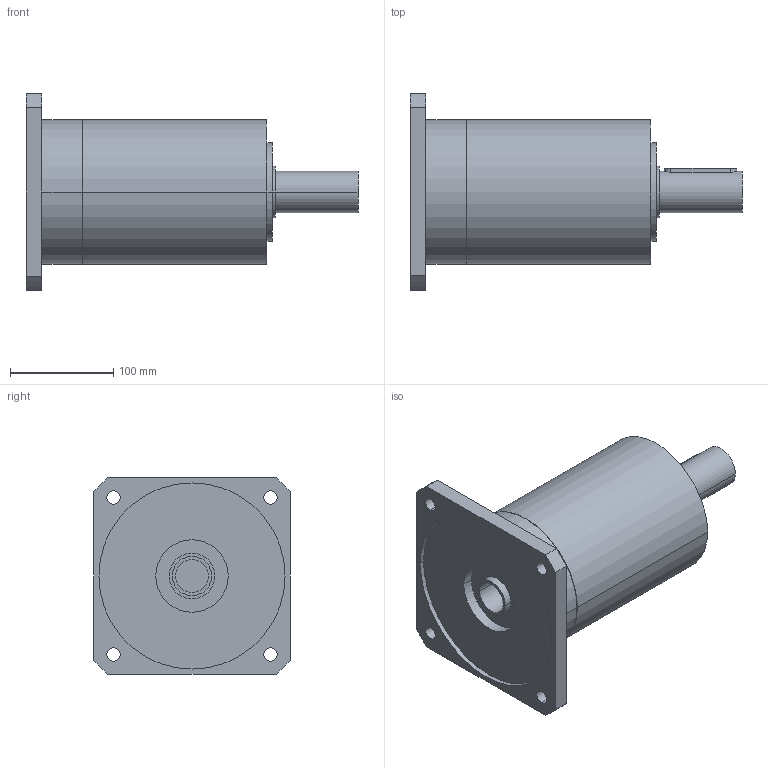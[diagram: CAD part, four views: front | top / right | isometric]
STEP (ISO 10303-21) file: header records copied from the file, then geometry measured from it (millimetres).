
FILE_DESCRIPTION(('CoCreate Modeling STEP Export'),'2;1');
FILE_NAME('GPR150_ig-9-12-16-20-28-35_40_B14_32_P06.stp','2014-08-19T17:04:00',(''),(''),'CoCreate Modeling STEP processor for AP214 (Solid Model)','CoCreate Modeling 16.00C 25-Feb-2009 (C) Parametric Technology GmbH','');
FILE_SCHEMA(('AUTOMOTIVE_DESIGN { 1 0 10303 214 1 1 1 1 }'));
Length unit declared in the file: millimetre
Products named in the file (2): GPR150_ig-9-12-16-20-28-35_40_B14_32_P06
Assembly tree (1 placements, depth 2):
  GPR150_ig-9-12-16-20-28-35_40_B14_32_P06
    GPR150_ig-9-12-16-20-28-35_40_B14_32_P06
Bounding box: 321 x 190 x 190 mm (x, y, z)
Volume: 3806390.1 mm3; surface area: 211208.9 mm2
Topology: 1 solids, 1 shells, 73 faces, 195 edges, 137 vertices
Faces by surface type: cylinder 44, plane 23, cone 6
Entity records: 2033 total; most frequent: CARTESIAN_POINT 395, ORIENTED_EDGE 386, DIRECTION 272, EDGE_CURVE 193, VERTEX_POINT 137, AXIS2_PLACEMENT_3D 102, EDGE_LOOP 96, FACE_OUTER_BOUND 73
